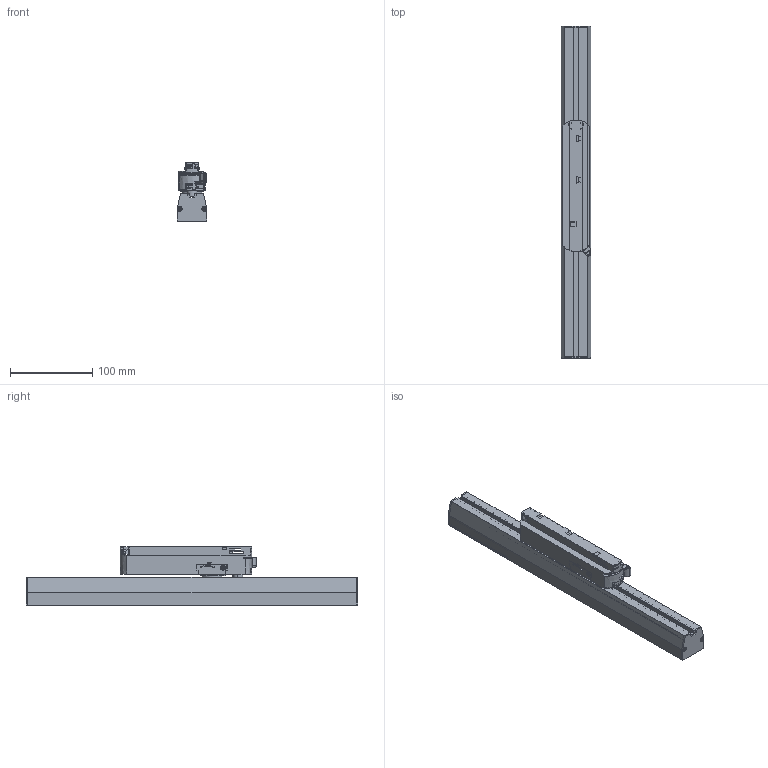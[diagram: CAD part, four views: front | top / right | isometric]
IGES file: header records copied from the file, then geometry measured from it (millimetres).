
Start section: SolidWorks IGES file using analytic representation for surfaces
Global section: file name: Z:\PRODUKT\Modele_3D_WWW\PROFILE 2025\PROFILE-FOCUS-15W\PROFILE FOCUS 15W.IGS; native system: SolidWorks 2024; preprocessor: SolidWorks 2024; author: anna.bielnik; date: 260203.141745; units: millimetre
Bounding box: 36 x 403 x 70.5 mm (x, y, z)
Surface area: 217389 mm2 (no closed solid volume)
Topology: 0 solids, 0 shells, 822 faces, 8385 edges, 8377 vertices
Faces by surface type: bspline 563, revolution 259
